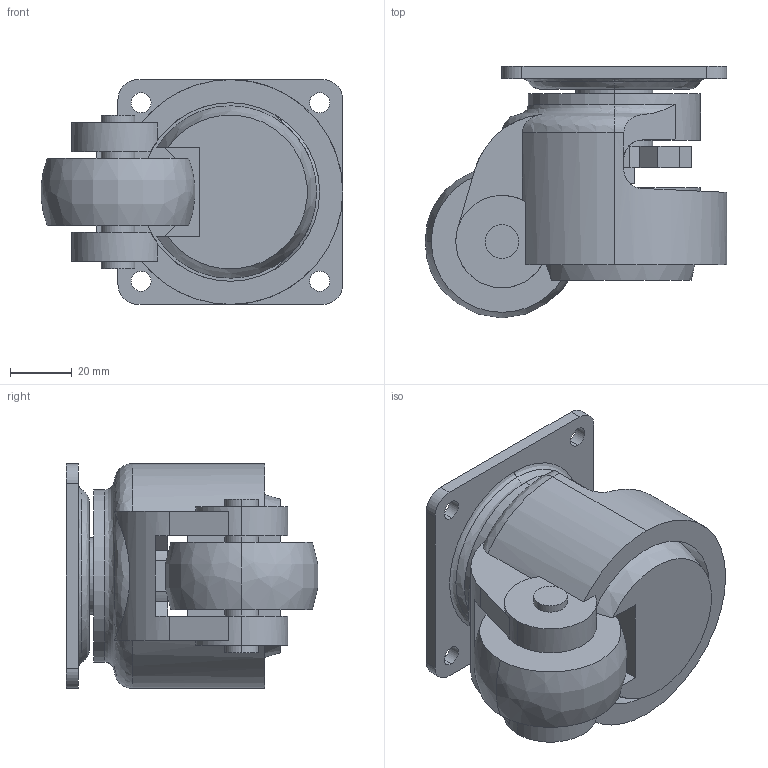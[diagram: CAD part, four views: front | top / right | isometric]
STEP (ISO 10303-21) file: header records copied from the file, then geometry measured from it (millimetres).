
FILE_DESCRIPTION (( 'STEP AP203' ), '1' );
FILE_NAME ('アジャスターフットキャスター(キャリーマスター).STEP', '2020-11-20T00:27:36', ( '' ), ( '' ), 'SwSTEP 2.0', 'SolidWorks 2017', '' );
FILE_SCHEMA (( 'CONFIG_CONTROL_DESIGN' ));
Length unit declared in the file: millimetre
Products named in the file (4): K-92-300F取付座_; アジャスターフットキャスター(キャリーマスター); K-92-300フット_; K-92-300ベース_
Assembly tree (3 placements, depth 2):
  アジャスターフットキャスター(キャリーマスター)
    K-92-300F取付座_
    K-92-300フット_
    K-92-300ベース_
Bounding box: 97.92 x 81.77 x 73 mm (x, y, z)
Volume: 242141.7 mm3; surface area: 62348.2 mm2
Topology: 3 solids, 3 shells, 134 faces, 350 edges, 230 vertices
Faces by surface type: plane 68, cylinder 53, bspline 12, cone 1
Entity records: 5247 total; most frequent: CARTESIAN_POINT 1491, DIRECTION 707, ORIENTED_EDGE 700, EDGE_CURVE 350, AXIS2_PLACEMENT_3D 256, VERTEX_POINT 230, LINE 195, VECTOR 195
